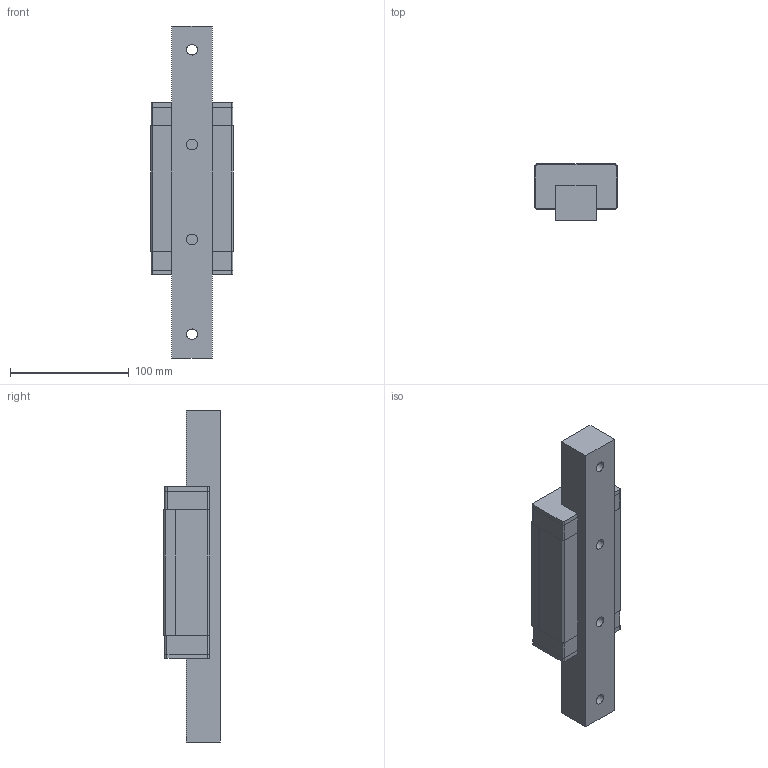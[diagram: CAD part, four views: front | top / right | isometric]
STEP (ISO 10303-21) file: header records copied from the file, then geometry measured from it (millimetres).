
FILE_DESCRIPTION((''),'2;1');
FILE_NAME('E:\PDF郪磁芞\DFS-B\DFS35BL.STP','2018-01-31T12:45:44',(''),(''),'STEP Write','Mastercam V9 ... CNC Software, Inc.','');
FILE_SCHEMA(('CONFIG_CONTROL_DESIGN'));
Length unit declared in the file: millimetre
Bounding box: 70 x 48 x 280 mm (x, y, z)
Volume: 563604.7 mm3; surface area: 99423.3 mm2
Topology: 6 solids, 6 shells, 102 faces, 463 edges, 586 vertices
Faces by surface type: plane 74, cylinder 28
Full cylindrical faces by diameter (mm): 7.3 x4, 9 x4, 14 x4
Entity records: 4354 total; most frequent: CARTESIAN_POINT 968, DIRECTION 757, ORIENTED_EDGE 468, VECTOR 325, LINE 325, EDGE_CURVE 234, AXIS2_PLACEMENT_3D 216, TRIMMED_CURVE 205
